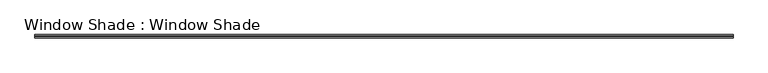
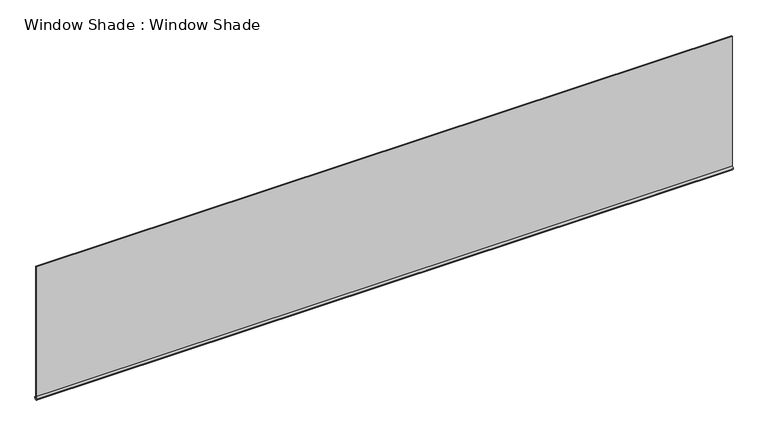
"""IFC4 building model written with IfcOpenShell, lengths in millimetres: furniture geometry, Window Shade : Window Shade."""

from ifc_helpers import new_model, si_unit, point, frame, frame_2d, origin, place, context, project, spatial, polyline, circle_curve, trimmed, segment, composite_curve, outline, extrude, source, transform, mapped, element, save


def window_shade_window_shade_0c37ad70(model_context):
    return source(origin(), model_context, "Body", "SweptSolid", [
        extrude(outline(polyline([(2518.3930066, 1.5875), (2518.3930066, -1.5875), (-2518.3930066, -1.5875), (-2518.3930066, 1.5875), (2518.3930066, 1.5875)])), frame((0.0, 0.0, 2650.5900824), z_axis=(0.0, 0.0, 1.0), x_axis=(1.0, 0.0, 0.0)), (0.0, 0.0, 1.0), 1007.0099176),
        extrude(outline(composite_curve([segment(trimmed(circle_curve(frame_2d((0.0, 2650.5900824)), 12.7), [point((-12.7, 2650.5900824))], [point((12.7, 2650.5900824))], False, "CARTESIAN"), True, "CONTINUOUS"), segment(trimmed(circle_curve(frame_2d((0.0, 2650.5900824)), 12.7), [point((12.7, 2650.5900824))], [point((-12.7, 2650.5900824))], False, "CARTESIAN"), True, "CONTINUOUS")], self_intersect=False)), frame((-2518.3930066, 0.0, 0.0), z_axis=(1.0, 0.0, 0.0), x_axis=(0.0, 1.0, 0.0)), (0.0, 0.0, 1.0), 5036.7860132),
    ])


if __name__ == "__main__":
    model = new_model("IFC4")
    model_context = context("Model", 3, world=origin())
    ifc_project = project(units=[si_unit("LENGTHUNIT", "METRE", prefix="MILLI")], contexts=[model_context])
    site = spatial("IfcSite", under=ifc_project)
    building = spatial("IfcBuilding", under=site)
    placement = place(None, origin())
    window_shade_window_shade_shape = window_shade_window_shade_0c37ad70(model_context)
    element("IfcFurniture", 1, ObjectType="Window Shade : Window Shade", at=placement, inside=building, context=model_context, shape_type="MappedRepresentation", body=[
        mapped(window_shade_window_shade_shape, transform((0.0, 0.0, 0.0), x_axis=(1.0, 0.0, 0.0), y_axis=(0.0, 1.0, 0.0), z_axis=(0.0, 0.0, 1.0))),
    ])
    save(model, "model.ifc")
